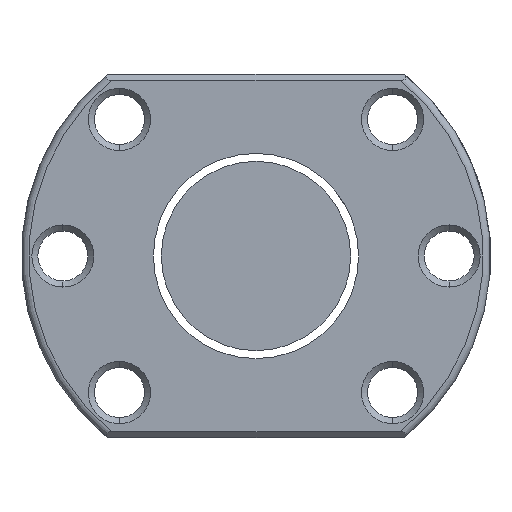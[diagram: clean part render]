
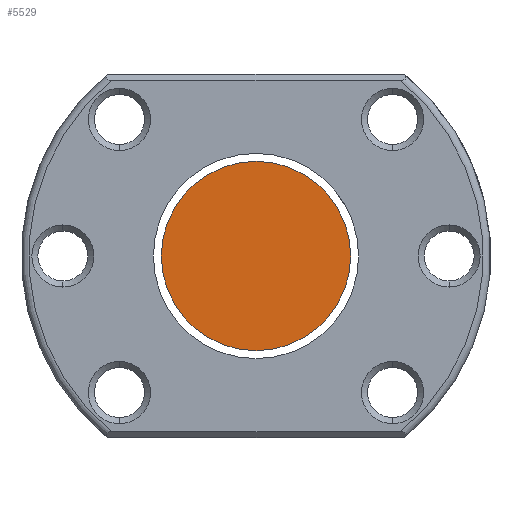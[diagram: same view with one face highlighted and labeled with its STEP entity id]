
A CAD part, left-side view. The second image highlights one B-rep face of the part: STEP entity #5529.
In plain terms, the highlighted planar face has unit normal (-1, 0, 0).
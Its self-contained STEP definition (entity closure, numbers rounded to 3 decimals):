
#336 = DIRECTION ( 'NONE',  ( 0., 0., -1. ) ) ;
#701 = AXIS2_PLACEMENT_3D ( 'NONE', #1855, #5235, #1411 ) ;
#821 = EDGE_CURVE ( 'NONE', #2803, #3033, #3922, .T. ) ;
#1018 = ORIENTED_EDGE ( 'NONE', *, *, #821, .F. ) ;
#1411 = DIRECTION ( 'NONE',  ( 0., 0., -1. ) ) ;
#1855 = CARTESIAN_POINT ( 'NONE',  ( -270., 0., 0. ) ) ;
#2056 = CARTESIAN_POINT ( 'NONE',  ( -270., 0., 0. ) ) ;
#2086 = AXIS2_PLACEMENT_3D ( 'NONE', #4531, #4149, #336 ) ;
#2803 = VERTEX_POINT ( 'NONE', #4180 ) ;
#3009 = CARTESIAN_POINT ( 'NONE',  ( -270., 0., 12.5 ) ) ;
#3033 = VERTEX_POINT ( 'NONE', #3009 ) ;
#3360 = FACE_OUTER_BOUND ( 'NONE', #5166, .T. ) ;
#3385 = DIRECTION ( 'NONE',  ( 0., 0., 1. ) ) ;
#3407 = AXIS2_PLACEMENT_3D ( 'NONE', #2056, #5021, #3385 ) ;
#3922 = CIRCLE ( 'NONE', #701, 12.5 ) ;
#4149 = DIRECTION ( 'NONE',  ( 1., 0., 0. ) ) ;
#4180 = CARTESIAN_POINT ( 'NONE',  ( -270., 0., -12.5 ) ) ;
#4213 = CIRCLE ( 'NONE', #2086, 12.5 ) ;
#4220 = PLANE ( 'NONE',  #3407 ) ;
#4229 = EDGE_CURVE ( 'NONE', #3033, #2803, #4213, .T. ) ;
#4531 = CARTESIAN_POINT ( 'NONE',  ( -270., 0., 0. ) ) ;
#4586 = ORIENTED_EDGE ( 'NONE', *, *, #4229, .F. ) ;
#5021 = DIRECTION ( 'NONE',  ( -1., 0., 0. ) ) ;
#5166 = EDGE_LOOP ( 'NONE', ( #1018, #4586 ) ) ;
#5235 = DIRECTION ( 'NONE',  ( 1., 0., 0. ) ) ;
#5529 = ADVANCED_FACE ( 'NONE', ( #3360 ), #4220, .T. ) ;
